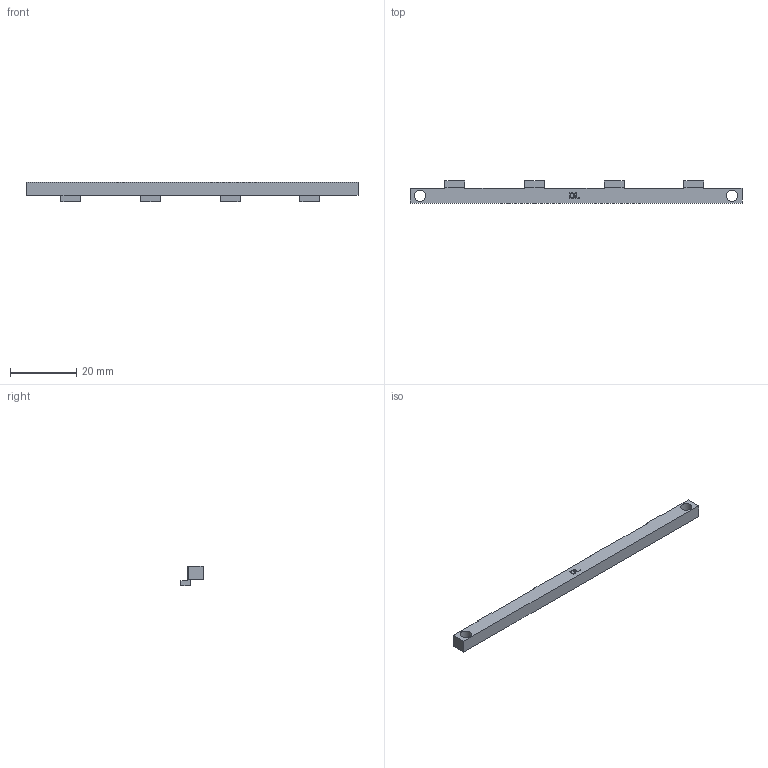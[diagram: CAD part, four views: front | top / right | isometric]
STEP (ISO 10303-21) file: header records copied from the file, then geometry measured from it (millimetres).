
FILE_DESCRIPTION(('Open CASCADE Model'),'2;1');
FILE_NAME('Open CASCADE Shape Model','2026-10-07T10:51:43',('Author'),( 'Open CASCADE'),'Open CASCADE STEP processor 7.8','Open CASCADE 7.8' ,'Unknown');
FILE_SCHEMA(('AUTOMOTIVE_DESIGN { 1 0 10303 214 1 1 1 1 }'));
Length unit declared in the file: millimetre
Products named in the file (1): Open CASCADE STEP translator 7.8 9
Bounding box: 100 x 6.7 x 5.95 mm (x, y, z)
Volume: 1819 mm3; surface area: 2021.9 mm2
Topology: 1 solids, 1 shells, 63 faces, 174 edges, 116 vertices
Faces by surface type: plane 53, extrusion 8, cylinder 2
Full cylindrical faces by diameter (mm): 3.4 x2
Entity records: 4419 total; most frequent: CARTESIAN_POINT 1061, DIRECTION 550, VECTOR 426, LINE 418, ORIENTED_EDGE 348, PCURVE 348, DEFINITIONAL_REPRESENTATION 348, EDGE_CURVE 174
